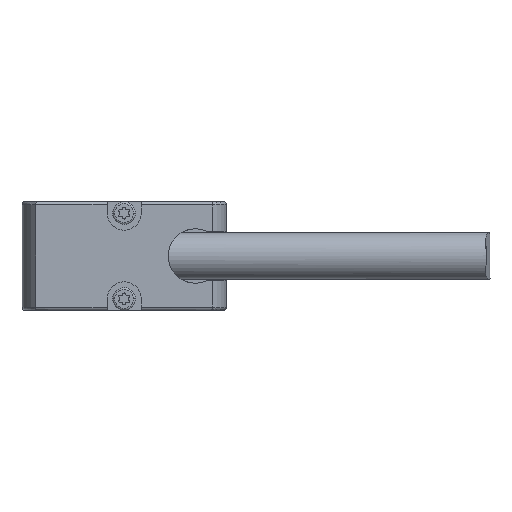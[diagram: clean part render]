
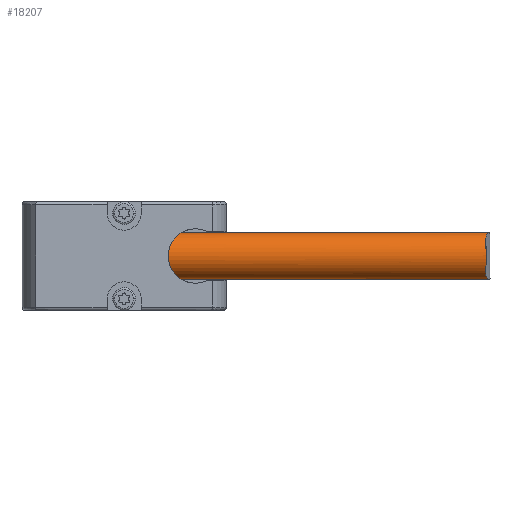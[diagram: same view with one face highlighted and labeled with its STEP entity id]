
A CAD part, front view. The second image highlights one B-rep face of the part: STEP entity #18207.
In plain terms, the highlighted cylindrical face has radius 3.5 mm (diameter 7 mm), a partial arc.
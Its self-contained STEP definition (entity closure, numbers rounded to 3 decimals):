
#234 = ORIENTED_EDGE ( 'NONE', *, *, #18066, .F. ) ;
#587 = CARTESIAN_POINT ( 'NONE',  ( 53.114, 2.323, 2.324 ) ) ;
#678 = CARTESIAN_POINT ( 'NONE',  ( 53.577, 4.95, -3.5 ) ) ;
#726 = CARTESIAN_POINT ( 'NONE',  ( 55., 4.95, 0. ) ) ;
#772 = CARTESIAN_POINT ( 'NONE',  ( 53.577, 4.95, 3.5 ) ) ;
#877 = CARTESIAN_POINT ( 'NONE',  ( 53.366, 4.054, 3.391 ) ) ;
#1960 = DIRECTION ( 'NONE',  ( 0., 0., -1. ) ) ;
#2202 = CARTESIAN_POINT ( 'NONE',  ( 53.137, 1.921, -1.768 ) ) ;
#3642 = VECTOR ( 'NONE', #12198, 1000. ) ;
#3654 = AXIS2_PLACEMENT_3D ( 'NONE', #726, #12995, #11478 ) ;
#3673 = DIRECTION ( 'NONE',  ( 1., 0., 0. ) ) ;
#3712 = CARTESIAN_POINT ( 'NONE',  ( 53.474, 4.497, -3.478 ) ) ;
#3828 = CARTESIAN_POINT ( 'NONE',  ( 53.187, 3.214, 3.047 ) ) ;
#3855 = ORIENTED_EDGE ( 'NONE', *, *, #3946, .T. ) ;
#3946 = EDGE_CURVE ( 'NONE', #18410, #4743, #15548, .T. ) ;
#4372 = EDGE_CURVE ( 'NONE', #4743, #13568, #15071, .T. ) ;
#4597 = LINE ( 'NONE', #16519, #3642 ) ;
#4743 = VERTEX_POINT ( 'NONE', #17693 ) ;
#5206 = FACE_OUTER_BOUND ( 'NONE', #9920, .T. ) ;
#5355 = CARTESIAN_POINT ( 'NONE',  ( 53.187, 3.218, -3.05 ) ) ;
#5467 = CARTESIAN_POINT ( 'NONE',  ( 53.136, 2.838, -2.8 ) ) ;
#5555 = CARTESIAN_POINT ( 'NONE',  ( 53.224, 3.419, -3.156 ) ) ;
#5645 = CARTESIAN_POINT ( 'NONE',  ( 53.121, 2.654, 2.652 ) ) ;
#5687 = ORIENTED_EDGE ( 'NONE', *, *, #4372, .T. ) ;
#6771 = CARTESIAN_POINT ( 'NONE',  ( 53.315, 3.841, -3.328 ) ) ;
#6870 = CARTESIAN_POINT ( 'NONE',  ( 53.182, 1.564, 0.914 ) ) ;
#7030 = AXIS2_PLACEMENT_3D ( 'NONE', #15818, #3673, #1960 ) ;
#7072 = CARTESIAN_POINT ( 'NONE',  ( 53.529, 4.724, -3.5 ) ) ;
#7166 = CARTESIAN_POINT ( 'NONE',  ( 53.12, 2.176, 2.147 ) ) ;
#8355 = CYLINDRICAL_SURFACE ( 'NONE', #3654, 3.5 ) ;
#8486 = CARTESIAN_POINT ( 'NONE',  ( 53.182, 1.564, -0.917 ) ) ;
#8577 = CARTESIAN_POINT ( 'NONE',  ( 53.172, 1.631, 1.133 ) ) ;
#9920 = EDGE_LOOP ( 'NONE', ( #234, #16785, #3855, #5687 ) ) ;
#10012 = CARTESIAN_POINT ( 'NONE',  ( 53.121, 2.656, -2.653 ) ) ;
#10202 = CARTESIAN_POINT ( 'NONE',  ( 53.196, 1.473, -0.461 ) ) ;
#11423 = CARTESIAN_POINT ( 'NONE',  ( 53.15, 1.808, 1.559 ) ) ;
#11478 = DIRECTION ( 'NONE',  ( 0., 0., 1. ) ) ;
#11633 = CARTESIAN_POINT ( 'NONE',  ( 53.114, 2.326, -2.328 ) ) ;
#12104 = CARTESIAN_POINT ( 'NONE',  ( 53.577, 4.95, -3.5 ) ) ;
#12198 = DIRECTION ( 'NONE',  ( -1., 0., 0. ) ) ;
#12946 = CARTESIAN_POINT ( 'NONE',  ( 53.135, 2.833, 2.796 ) ) ;
#12995 = DIRECTION ( 'NONE',  ( -1., 0., 0. ) ) ;
#13043 = CARTESIAN_POINT ( 'NONE',  ( 53.224, 3.418, 3.155 ) ) ;
#13140 = CARTESIAN_POINT ( 'NONE',  ( 53.2, 1.45, 0.228 ) ) ;
#13239 = CARTESIAN_POINT ( 'NONE',  ( 53.314, 3.839, 3.327 ) ) ;
#13568 = VERTEX_POINT ( 'NONE', #14446 ) ;
#13666 = VERTEX_POINT ( 'NONE', #12104 ) ;
#13786 = VECTOR ( 'NONE', #19906, 1000. ) ;
#14446 = CARTESIAN_POINT ( 'NONE',  ( 5., 4.95, -3.5 ) ) ;
#14834 = CARTESIAN_POINT ( 'NONE',  ( 53.367, 4.058, -3.392 ) ) ;
#15071 = CIRCLE ( 'NONE', #7030, 3.5 ) ;
#15443 = CARTESIAN_POINT ( 'NONE',  ( 53.577, 4.95, 3.5 ) ) ;
#15548 = LINE ( 'NONE', #20018, #13786 ) ;
#15818 = CARTESIAN_POINT ( 'NONE',  ( 5., 4.95, 0. ) ) ;
#16058 = CARTESIAN_POINT ( 'NONE',  ( 53.172, 1.632, -1.138 ) ) ;
#16247 = CARTESIAN_POINT ( 'NONE',  ( 53.529, 4.722, 3.5 ) ) ;
#16379 = EDGE_CURVE ( 'NONE', #13666, #18410, #17317, .T. ) ;
#16451 = CARTESIAN_POINT ( 'NONE',  ( 53.2, 1.45, -0.232 ) ) ;
#16519 = CARTESIAN_POINT ( 'NONE',  ( 55., 4.95, -3.5 ) ) ;
#16785 = ORIENTED_EDGE ( 'NONE', *, *, #16379, .T. ) ;
#17317 = B_SPLINE_CURVE_WITH_KNOTS ( 'NONE', 3,
 ( #678, #7072, #3712, #14834, #6771, #5555, #5355, #5467, #10012, #11633, #19091, #2202, #17768, #16058, #8486, #10202, #16451, #13140, #19289, #6870, #8577, #11423, #17674, #7166, #587, #5645, #12946, #3828, #13043, #13239, #877, #19392, #16247, #772 ),
 .UNSPECIFIED., .F., .F.,
 ( 4, 2, 2, 2, 2, 2, 2, 2, 2, 2, 2, 2, 2, 2, 2, 2, 4 ),
 ( 0.011, 0.012, 0.012, 0.013, 0.014, 0.014, 0.015, 0.016, 0.017, 0.017, 0.018, 0.019, 0.019, 0.02, 0.021, 0.021, 0.022 ),
 .UNSPECIFIED. ) ;
#17674 = CARTESIAN_POINT ( 'NONE',  ( 53.138, 1.919, 1.766 ) ) ;
#17693 = CARTESIAN_POINT ( 'NONE',  ( 5., 4.95, 3.5 ) ) ;
#17768 = CARTESIAN_POINT ( 'NONE',  ( 53.15, 1.81, -1.562 ) ) ;
#18066 = EDGE_CURVE ( 'NONE', #13666, #13568, #4597, .T. ) ;
#18207 = ADVANCED_FACE ( 'NONE', ( #5206 ), #8355, .T. ) ;
#18410 = VERTEX_POINT ( 'NONE', #15443 ) ;
#19091 = CARTESIAN_POINT ( 'NONE',  ( 53.119, 2.179, -2.151 ) ) ;
#19289 = CARTESIAN_POINT ( 'NONE',  ( 53.196, 1.473, 0.461 ) ) ;
#19392 = CARTESIAN_POINT ( 'NONE',  ( 53.474, 4.496, 3.478 ) ) ;
#19906 = DIRECTION ( 'NONE',  ( -1., 0., 0. ) ) ;
#20018 = CARTESIAN_POINT ( 'NONE',  ( 55., 4.95, 3.5 ) ) ;
